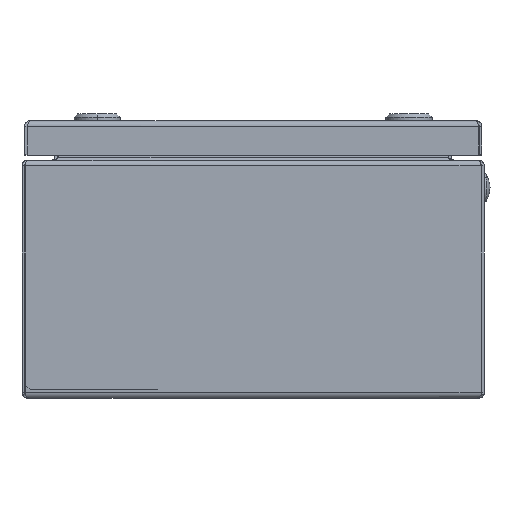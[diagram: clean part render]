
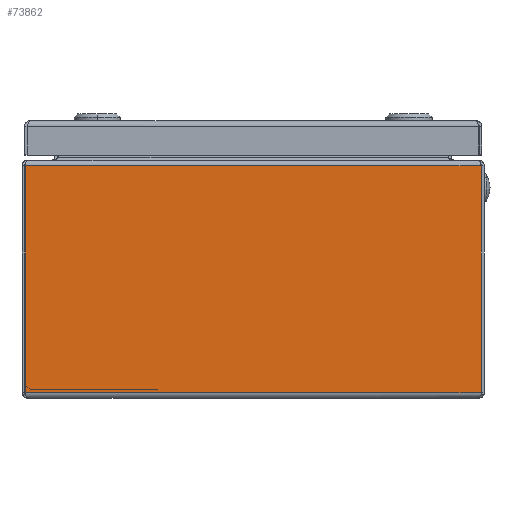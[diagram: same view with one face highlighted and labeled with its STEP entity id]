
A CAD part, left-side view. The second image highlights one B-rep face of the part: STEP entity #73862.
In plain terms, the highlighted planar face has unit normal (-1, 0, 0).
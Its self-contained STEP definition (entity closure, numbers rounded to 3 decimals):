
#2929 = PLANE ( 'NONE',  #37304 ) ;
#3722 = VECTOR ( 'NONE', #79184, 1000. ) ;
#4253 = DIRECTION ( 'NONE',  ( 0., 1., 0. ) ) ;
#4828 = EDGE_LOOP ( 'NONE', ( #49418, #94453, #42091, #22735 ) ) ;
#15578 = CARTESIAN_POINT ( 'NONE',  ( -150., -98.623, 100.6 ) ) ;
#16304 = EDGE_CURVE ( 'NONE', #33383, #41440, #60306, .T. ) ;
#17654 = CARTESIAN_POINT ( 'NONE',  ( -150., -1600., 100.6 ) ) ;
#18290 = VECTOR ( 'NONE', #19940, 1000. ) ;
#19940 = DIRECTION ( 'NONE',  ( 0., 0., -1. ) ) ;
#22735 = ORIENTED_EDGE ( 'NONE', *, *, #16304, .T. ) ;
#24287 = CARTESIAN_POINT ( 'NONE',  ( -150., 98.623, 100.6 ) ) ;
#25532 = CARTESIAN_POINT ( 'NONE',  ( -150., -98.623, 2.4 ) ) ;
#26024 = DIRECTION ( 'NONE',  ( 1., 0., 0. ) ) ;
#30101 = DIRECTION ( 'NONE',  ( 0., 0., 1. ) ) ;
#33383 = VERTEX_POINT ( 'NONE', #15578 ) ;
#34760 = VECTOR ( 'NONE', #4253, 1000. ) ;
#34890 = DIRECTION ( 'NONE',  ( 0., 0., -1. ) ) ;
#36794 = CARTESIAN_POINT ( 'NONE',  ( -150., -1600., 100.6 ) ) ;
#37304 = AXIS2_PLACEMENT_3D ( 'NONE', #17654, #26024, #34890 ) ;
#37983 = CARTESIAN_POINT ( 'NONE',  ( -150., 98.623, 2.4 ) ) ;
#41440 = VERTEX_POINT ( 'NONE', #24287 ) ;
#42091 = ORIENTED_EDGE ( 'NONE', *, *, #59526, .F. ) ;
#49418 = ORIENTED_EDGE ( 'NONE', *, *, #73217, .F. ) ;
#49479 = VERTEX_POINT ( 'NONE', #25532 ) ;
#54513 = VECTOR ( 'NONE', #30101, 1000. ) ;
#55111 = CARTESIAN_POINT ( 'NONE',  ( -150., -1600., 2.4 ) ) ;
#59526 = EDGE_CURVE ( 'NONE', #33383, #49479, #75934, .T. ) ;
#60306 = LINE ( 'NONE', #36794, #34760 ) ;
#67340 = VERTEX_POINT ( 'NONE', #37983 ) ;
#73217 = EDGE_CURVE ( 'NONE', #67340, #41440, #102816, .T. ) ;
#73862 = ADVANCED_FACE ( 'NONE', ( #96709 ), #2929, .F. ) ;
#75934 = LINE ( 'NONE', #83783, #18290 ) ;
#79184 = DIRECTION ( 'NONE',  ( 0., 1., 0. ) ) ;
#83783 = CARTESIAN_POINT ( 'NONE',  ( -150., -98.623, 100.6 ) ) ;
#85593 = CARTESIAN_POINT ( 'NONE',  ( -150., 98.623, 100.6 ) ) ;
#94453 = ORIENTED_EDGE ( 'NONE', *, *, #94805, .F. ) ;
#94805 = EDGE_CURVE ( 'NONE', #49479, #67340, #94890, .T. ) ;
#94890 = LINE ( 'NONE', #55111, #3722 ) ;
#96709 = FACE_OUTER_BOUND ( 'NONE', #4828, .T. ) ;
#102816 = LINE ( 'NONE', #85593, #54513 ) ;
